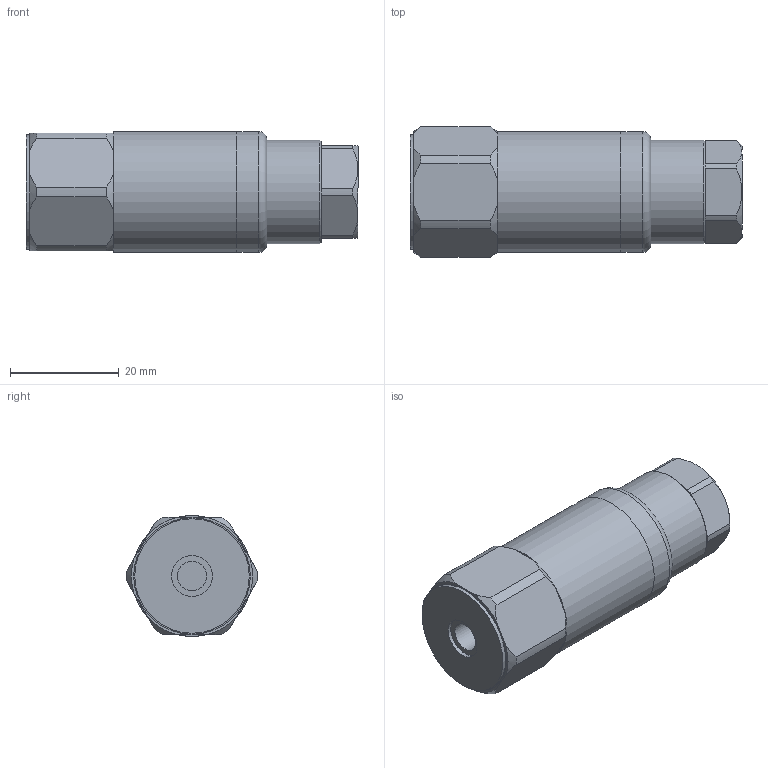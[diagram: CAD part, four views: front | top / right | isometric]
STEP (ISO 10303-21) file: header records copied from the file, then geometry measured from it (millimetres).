
FILE_DESCRIPTION(/* description */ (''),/* implementation_level */ '2;1');
FILE_NAME(/* name */ 'Z:\Engineering\Drawings\3D Library\Assemblies\Website\Premium Top\HS-150 Top Silicon\HS-150XXX0701.stp',/* time_stamp */ '2023-03-12T11:26:51+00:00',/* author */ ('Ricardo.Peneda'),/* organization */ (''),/* preprocessor_version */ 'ST-DEVELOPER v18.1',/* originating_system */ 'Autodesk Inventor 2021',/* authorisation */ '');
FILE_SCHEMA (('AUTOMOTIVE_DESIGN { 1 0 10303 214 3 1 1 }'));
Length unit declared in the file: inch
Products named in the file (1): HS-150XXX0701_Shrinkwrap_1
Bounding box: 60.95 x 23.99 x 22.2 mm (x, y, z)
Volume: 13542 mm3; surface area: 8545.8 mm2
Topology: 3 solids, 3 shells, 82 faces, 212 edges, 148 vertices
Faces by surface type: plane 36, cylinder 28, cone 17, torus 1
Full cylindrical faces by diameter (mm): 5.359 x1, 7.5 x1, 9 x1, 12 x2, 14 x1, 15 x2, 15.055 x1, 18 x1, 19 x1, 19.95 x1, 20 x1, 21 x1, 22.2 x2
Entity records: 2678 total; most frequent: CARTESIAN_POINT 514, DIRECTION 453, ORIENTED_EDGE 422, EDGE_CURVE 211, AXIS2_PLACEMENT_3D 195, VERTEX_POINT 148, CIRCLE 112, EDGE_LOOP 99
